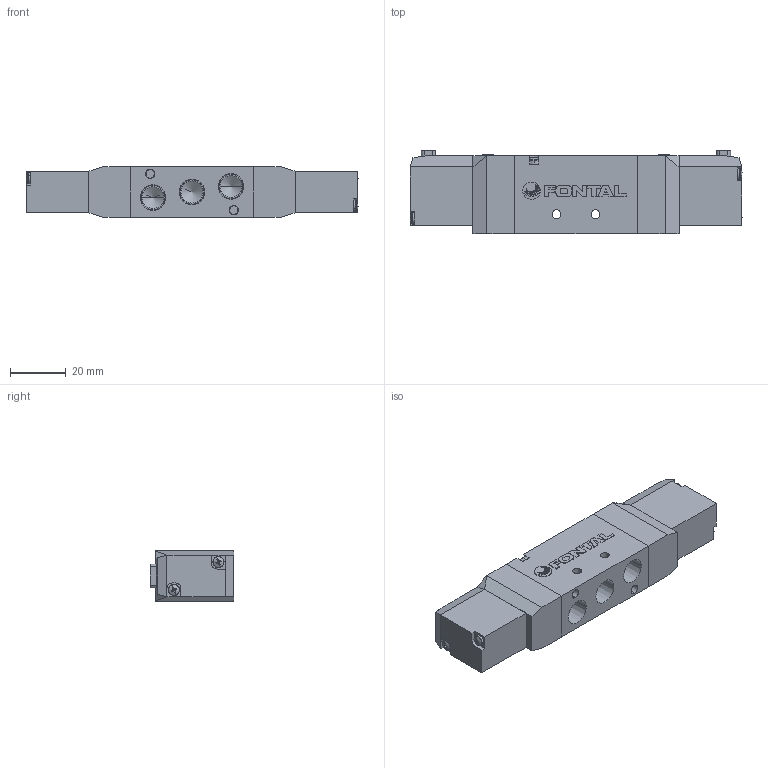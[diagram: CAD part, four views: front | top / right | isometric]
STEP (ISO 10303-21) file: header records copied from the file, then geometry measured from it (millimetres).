
FILE_DESCRIPTION (( 'STEP AP203' ), '1' );
FILE_NAME ('RCD2413-01-#-L-#.STEP', '2016-02-04T05:20:24', ( 'Sam Lin' ), ( '' ), 'SwSTEP 2.0', 'SolidWorks 2013', '' );
FILE_SCHEMA (( 'CONFIG_CONTROL_DESIGN' ));
Length unit declared in the file: metre
Products named in the file (8): PC13-6; PC5-6; ISO 7045 - M3 x 20; PC13-3-3413; RCD2413-01-#-L-#; PC13-MARK; PC13-5; ISO 7045 - M2 x 10
Assembly tree (14 placements, depth 2):
  RCD2413-01-#-L-#
    PC13-MARK
    PC13-5  x2
    ISO 7045 - M2 x 10  x4
    PC13-6  x2
    PC5-6  x2
    ISO 7045 - M3 x 20  x2
    PC13-3-3413
Bounding box: 119.14 x 30 x 18.6 mm (x, y, z)
Volume: 49169.6 mm3; surface area: 19122.3 mm2
Topology: 20 solids, 20 shells, 524 faces, 1273 edges, 789 vertices
Faces by surface type: plane 290, cylinder 104, cone 86, bspline 44
Entity records: 9912 total; most frequent: CARTESIAN_POINT 2054, ORIENTED_EDGE 1412, DIRECTION 1412, EDGE_CURVE 706, AXIS2_PLACEMENT_3D 500, VERTEX_POINT 454, LINE 412, VECTOR 412
